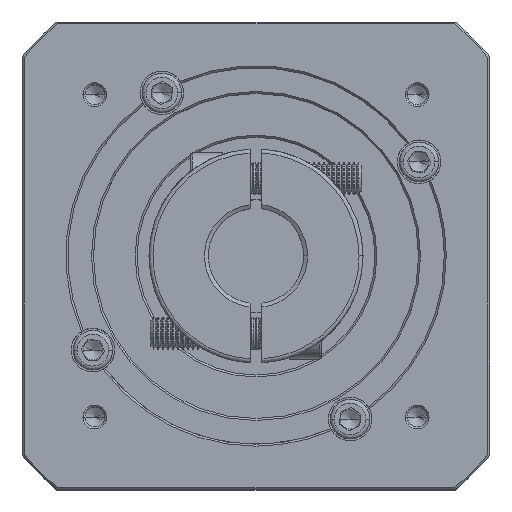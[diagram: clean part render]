
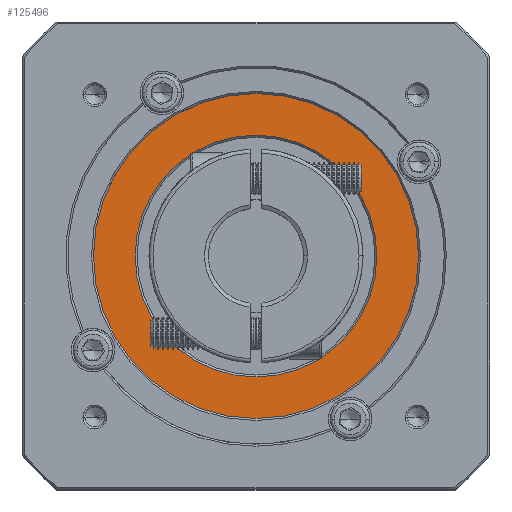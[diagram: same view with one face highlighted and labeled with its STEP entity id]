
A CAD part, top view. The second image highlights one B-rep face of the part: STEP entity #125496.
In plain terms, the highlighted planar face has unit normal (0, 0, 1).
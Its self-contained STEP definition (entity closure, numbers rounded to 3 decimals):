
#1061 = EDGE_LOOP ( 'NONE', ( #71770, #77304 ) ) ;
#4609 = CIRCLE ( 'NONE', #75527, 41. ) ;
#7061 = CARTESIAN_POINT ( 'NONE',  ( -62.309, -108.745, -24.626 ) ) ;
#13399 = FACE_OUTER_BOUND ( 'NONE', #113906, .T. ) ;
#15018 = CARTESIAN_POINT ( 'NONE',  ( -21.309, -108.745, -24.626 ) ) ;
#17533 = AXIS2_PLACEMENT_3D ( 'NONE', #59734, #50703, #100070 ) ;
#19417 = CARTESIAN_POINT ( 'NONE',  ( -62.309, -108.745, -24.626 ) ) ;
#20714 = EDGE_CURVE ( 'NONE', #103380, #48840, #4609, .T. ) ;
#33886 = EDGE_CURVE ( 'NONE', #48840, #103380, #106820, .T. ) ;
#40993 = VERTEX_POINT ( 'NONE', #103427 ) ;
#48840 = VERTEX_POINT ( 'NONE', #15018 ) ;
#50343 = DIRECTION ( 'NONE',  ( 0., 0., 1. ) ) ;
#50703 = DIRECTION ( 'NONE',  ( 0., 0., -1. ) ) ;
#54933 = DIRECTION ( 'NONE',  ( 0., 0., 1. ) ) ;
#55711 = AXIS2_PLACEMENT_3D ( 'NONE', #19417, #86574, #77084 ) ;
#59734 = CARTESIAN_POINT ( 'NONE',  ( -62.309, -108.745, -24.626 ) ) ;
#62610 = AXIS2_PLACEMENT_3D ( 'NONE', #79484, #50343, #99715 ) ;
#66955 = AXIS2_PLACEMENT_3D ( 'NONE', #99769, #83011, #121624 ) ;
#67270 = FACE_BOUND ( 'NONE', #1061, .T. ) ;
#68315 = VERTEX_POINT ( 'NONE', #97389 ) ;
#71770 = ORIENTED_EDGE ( 'NONE', *, *, #111819, .T. ) ;
#75527 = AXIS2_PLACEMENT_3D ( 'NONE', #7061, #54933, #109055 ) ;
#77084 = DIRECTION ( 'NONE',  ( 1., 0., 0. ) ) ;
#77304 = ORIENTED_EDGE ( 'NONE', *, *, #106766, .T. ) ;
#79484 = CARTESIAN_POINT ( 'NONE',  ( -62.309, -108.745, -24.626 ) ) ;
#79981 = PLANE ( 'NONE',  #66955 ) ;
#83011 = DIRECTION ( 'NONE',  ( 0., 0., 1. ) ) ;
#86552 = ORIENTED_EDGE ( 'NONE', *, *, #33886, .T. ) ;
#86574 = DIRECTION ( 'NONE',  ( 0., 0., -1. ) ) ;
#87582 = CARTESIAN_POINT ( 'NONE',  ( -103.309, -108.745, -24.626 ) ) ;
#97389 = CARTESIAN_POINT ( 'NONE',  ( -31.809, -108.745, -24.626 ) ) ;
#99715 = DIRECTION ( 'NONE',  ( 1., 0., 0. ) ) ;
#99769 = CARTESIAN_POINT ( 'NONE',  ( -62.309, -108.745, -24.626 ) ) ;
#100070 = DIRECTION ( 'NONE',  ( 1., 0., 0. ) ) ;
#103380 = VERTEX_POINT ( 'NONE', #87582 ) ;
#103427 = CARTESIAN_POINT ( 'NONE',  ( -92.809, -108.745, -24.626 ) ) ;
#106766 = EDGE_CURVE ( 'NONE', #40993, #68315, #121153, .T. ) ;
#106820 = CIRCLE ( 'NONE', #62610, 41. ) ;
#109055 = DIRECTION ( 'NONE',  ( 1., 0., 0. ) ) ;
#111819 = EDGE_CURVE ( 'NONE', #68315, #40993, #122205, .T. ) ;
#113906 = EDGE_LOOP ( 'NONE', ( #86552, #120205 ) ) ;
#120205 = ORIENTED_EDGE ( 'NONE', *, *, #20714, .T. ) ;
#121153 = CIRCLE ( 'NONE', #55711, 30.5 ) ;
#121624 = DIRECTION ( 'NONE',  ( 1., 0., 0. ) ) ;
#122205 = CIRCLE ( 'NONE', #17533, 30.5 ) ;
#125496 = ADVANCED_FACE ( 'NONE', ( #13399, #67270 ), #79981, .T. ) ;
